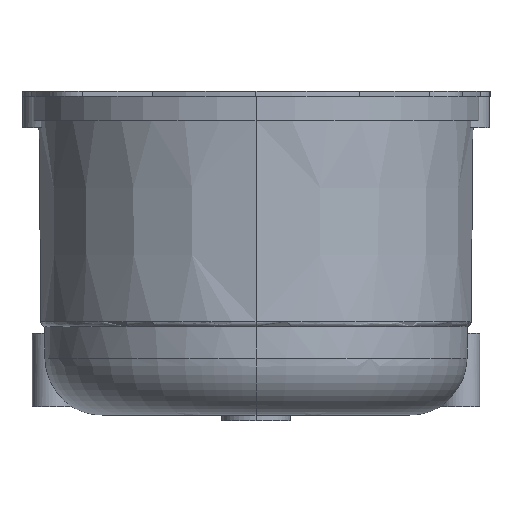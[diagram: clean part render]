
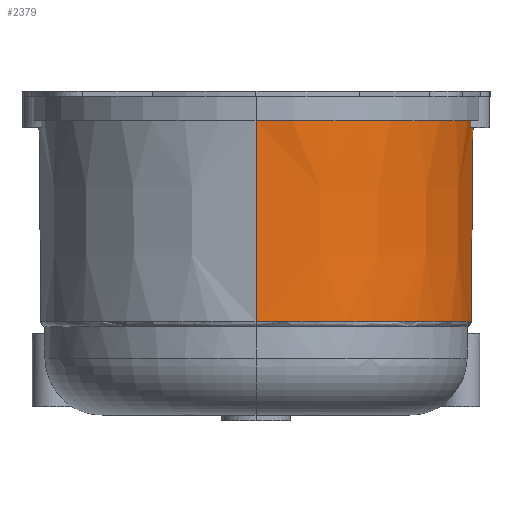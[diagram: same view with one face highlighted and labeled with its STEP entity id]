
A CAD part, left-side view. The second image highlights one B-rep face of the part: STEP entity #2379.
In plain terms, the highlighted conical face has half-angle 0.539 degrees and reference radius 33.218 mm.
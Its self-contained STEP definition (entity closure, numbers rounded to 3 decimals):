
#50=CONICAL_SURFACE('',#2589,33.218,0.009);
#63=B_SPLINE_CURVE_WITH_KNOTS('',3,(#3828,#3829,#3830,#3831,#3832,#3833),
 .UNSPECIFIED.,.F.,.F.,(4,2,4),(-33.227,-23.391,-4.905),
 .UNSPECIFIED.);
#99=B_SPLINE_CURVE_WITH_KNOTS('',3,(#4602,#4603,#4604,#4605,#4606,#4607),
 .UNSPECIFIED.,.F.,.F.,(4,1,1,4),(0.,0.333,0.667,
1.),.UNSPECIFIED.);
#248=FACE_OUTER_BOUND('',#384,.T.);
#384=EDGE_LOOP('',(#1956,#1957,#1958,#1959));
#556=LINE('',#4629,#732);
#732=VECTOR('',#3123,304.8);
#875=CIRCLE('',#2590,33.247);
#1042=VERTEX_POINT('',#3825);
#1043=VERTEX_POINT('',#3827);
#1085=VERTEX_POINT('',#4561);
#1087=VERTEX_POINT('',#4628);
#1326=EDGE_CURVE('',#1043,#1042,#63,.T.);
#1401=EDGE_CURVE('',#1085,#1043,#99,.T.);
#1406=EDGE_CURVE('',#1085,#1087,#556,.T.);
#1407=EDGE_CURVE('',#1087,#1042,#875,.T.);
#1956=ORIENTED_EDGE('',*,*,#1406,.F.);
#1957=ORIENTED_EDGE('',*,*,#1401,.T.);
#1958=ORIENTED_EDGE('',*,*,#1326,.T.);
#1959=ORIENTED_EDGE('',*,*,#1407,.F.);
#2379=ADVANCED_FACE('',(#248),#50,.T.);
#2589=AXIS2_PLACEMENT_3D('',#4627,#3121,#3122);
#2590=AXIS2_PLACEMENT_3D('',#4630,#3124,#3125);
#3121=DIRECTION('center_axis',(0.,0.,
1.));
#3122=DIRECTION('ref_axis',(-0.809,0.588,0.));
#3123=DIRECTION('',(-0.009,0.,1.));
#3124=DIRECTION('center_axis',(0.,0.,1.));
#3125=DIRECTION('ref_axis',(-0.809,0.588,0.));
#3825=CARTESIAN_POINT('',(-2.291,-33.168,-4.5));
#3827=CARTESIAN_POINT('',(-2.535,-32.861,-35.209));
#3828=CARTESIAN_POINT('Ctrl Pts',(-2.535,-32.861,-35.209));
#3829=CARTESIAN_POINT('Ctrl Pts',(-2.51,-32.896,-31.661));
#3830=CARTESIAN_POINT('Ctrl Pts',(-2.484,-32.932,-28.055));
#3831=CARTESIAN_POINT('Ctrl Pts',(-2.405,-33.036,-17.671));
#3832=CARTESIAN_POINT('Ctrl Pts',(-2.349,-33.104,-10.893));
#3833=CARTESIAN_POINT('Ctrl Pts',(-2.291,-33.168,-4.5));
#4561=CARTESIAN_POINT('',(-32.958,0.,-35.209));
#4602=CARTESIAN_POINT('Ctrl Pts',(-32.958,0.,
-35.209));
#4603=CARTESIAN_POINT('Ctrl Pts',(-33.094,-5.563,-35.209));
#4604=CARTESIAN_POINT('Ctrl Pts',(-30.128,-16.378,-35.209));
#4605=CARTESIAN_POINT('Ctrl Pts',(-18.647,-28.779,-35.209));
#4606=CARTESIAN_POINT('Ctrl Pts',(-8.091,-32.568,-35.209));
#4607=CARTESIAN_POINT('Ctrl Pts',(-2.535,-32.861,-35.209));
#4627=CARTESIAN_POINT('Origin',(0.,0.,
-7.571));
#4628=CARTESIAN_POINT('',(-33.247,0.,-4.5));
#4629=CARTESIAN_POINT('',(-32.958,0.,-35.209));
#4630=CARTESIAN_POINT('Origin',(0.,0.,
-4.5));
